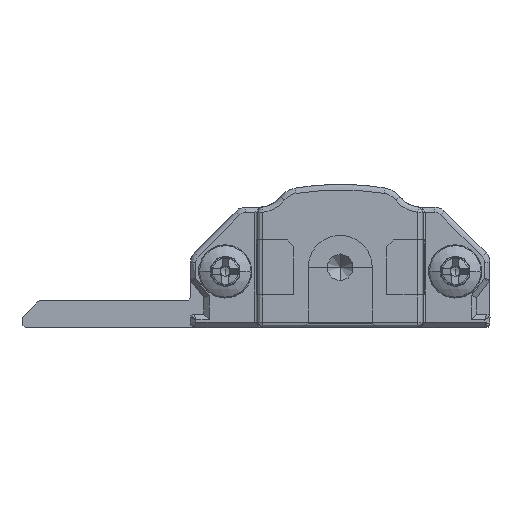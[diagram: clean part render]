
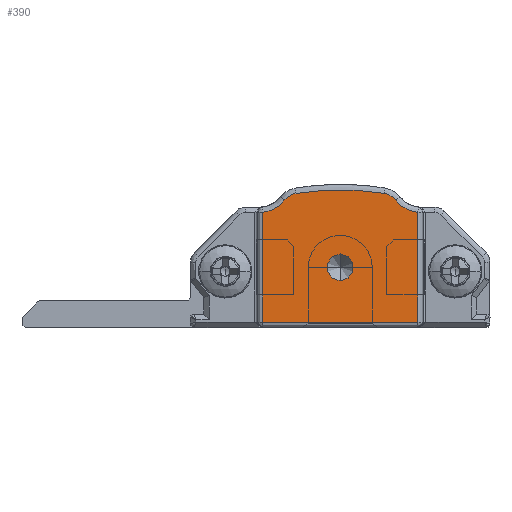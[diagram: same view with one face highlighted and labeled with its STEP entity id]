
A CAD part, front view. The second image highlights one B-rep face of the part: STEP entity #390.
In plain terms, the highlighted planar face has unit normal (0, -1, 0).
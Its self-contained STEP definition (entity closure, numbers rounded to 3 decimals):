
#29 = ORIENTED_EDGE ( 'NONE', *, *, #2611, .T. ) ;
#353 = CARTESIAN_POINT ( 'NONE',  ( 17., -15., 0.4 ) ) ;
#359 = DIRECTION ( 'NONE',  ( 0., 1., 0. ) ) ;
#390 = ADVANCED_FACE ( 'NONE', ( #5642, #10353 ), #19999, .T. ) ;
#447 = VERTEX_POINT ( 'NONE', #1150 ) ;
#921 = EDGE_LOOP ( 'NONE', ( #6672, #5961 ) ) ;
#1003 = LINE ( 'NONE', #13514, #22557 ) ;
#1150 = CARTESIAN_POINT ( 'NONE',  ( 11.2, -15., 3.5 ) ) ;
#1550 = CARTESIAN_POINT ( 'NONE',  ( 11.2, -15., -10.376 ) ) ;
#1618 = DIRECTION ( 'NONE',  ( 0., 0., -1. ) ) ;
#2157 = VERTEX_POINT ( 'NONE', #17622 ) ;
#2611 = EDGE_CURVE ( 'NONE', #4680, #22656, #22935, .T. ) ;
#2654 = CIRCLE ( 'NONE', #17318, 2.4 ) ;
#3405 = AXIS2_PLACEMENT_3D ( 'NONE', #20953, #13827, #30665 ) ;
#3486 = CARTESIAN_POINT ( 'NONE',  ( 7.068, -15., 9.541 ) ) ;
#3673 = CARTESIAN_POINT ( 'NONE',  ( 14.508, -15., 10.034 ) ) ;
#3954 = VERTEX_POINT ( 'NONE', #9781 ) ;
#4488 = EDGE_CURVE ( 'NONE', #22967, #447, #11002, .T. ) ;
#4516 = EDGE_CURVE ( 'NONE', #22656, #30895, #14556, .T. ) ;
#4680 = VERTEX_POINT ( 'NONE', #12801 ) ;
#4952 = AXIS2_PLACEMENT_3D ( 'NONE', #28570, #6859, #14146 ) ;
#4994 = CARTESIAN_POINT ( 'NONE',  ( 17.238, -15., 11. ) ) ;
#5233 = DIRECTION ( 'NONE',  ( 0., 0., -1. ) ) ;
#5642 = FACE_OUTER_BOUND ( 'NONE', #15923, .T. ) ;
#5961 = ORIENTED_EDGE ( 'NONE', *, *, #4488, .F. ) ;
#6672 = ORIENTED_EDGE ( 'NONE', *, *, #31171, .F. ) ;
#6859 = DIRECTION ( 'NONE',  ( 0., -1., 0. ) ) ;
#7017 = VECTOR ( 'NONE', #23254, 1000. ) ;
#7809 = CIRCLE ( 'NONE', #30606, 2.4 ) ;
#7829 = CIRCLE ( 'NONE', #23993, 1. ) ;
#8705 = ORIENTED_EDGE ( 'NONE', *, *, #29347, .T. ) ;
#9039 = VECTOR ( 'NONE', #29306, 1000. ) ;
#9086 = DIRECTION ( 'NONE',  ( 0., 0., -1. ) ) ;
#9226 = ORIENTED_EDGE ( 'NONE', *, *, #29610, .T. ) ;
#9487 = CIRCLE ( 'NONE', #3405, 1.3 ) ;
#9586 = CARTESIAN_POINT ( 'NONE',  ( 17., -15., 8.612 ) ) ;
#9640 = VERTEX_POINT ( 'NONE', #3673 ) ;
#9668 = CARTESIAN_POINT ( 'NONE',  ( 17., -15., 8.612 ) ) ;
#9781 = CARTESIAN_POINT ( 'NONE',  ( 7.892, -15., 10.034 ) ) ;
#10175 = AXIS2_PLACEMENT_3D ( 'NONE', #23325, #27476, #1618 ) ;
#10353 = FACE_BOUND ( 'NONE', #921, .T. ) ;
#11002 = CIRCLE ( 'NONE', #19616, 1. ) ;
#11107 = VERTEX_POINT ( 'NONE', #3486 ) ;
#11414 = DIRECTION ( 'NONE',  ( 0., -1., 0. ) ) ;
#11584 = CARTESIAN_POINT ( 'NONE',  ( 11.2, -15., 4.5 ) ) ;
#12103 = DIRECTION ( 'NONE',  ( 0., 1., 0. ) ) ;
#12208 = CARTESIAN_POINT ( 'NONE',  ( 11.2, -15., 5.5 ) ) ;
#12423 = CARTESIAN_POINT ( 'NONE',  ( 5.162, -15., 11. ) ) ;
#12801 = CARTESIAN_POINT ( 'NONE',  ( 5.4, -15., 0.4 ) ) ;
#13514 = CARTESIAN_POINT ( 'NONE',  ( 5.4, -15., 0.4 ) ) ;
#13827 = DIRECTION ( 'NONE',  ( 0., -1., 0. ) ) ;
#14146 = DIRECTION ( 'NONE',  ( 0., 0., -1. ) ) ;
#14556 = LINE ( 'NONE', #9668, #9039 ) ;
#14814 = DIRECTION ( 'NONE',  ( 0., 0., -1. ) ) ;
#15100 = DIRECTION ( 'NONE',  ( 0., 0., -1. ) ) ;
#15575 = CARTESIAN_POINT ( 'NONE',  ( 5.4, -15., 8.612 ) ) ;
#15923 = EDGE_LOOP ( 'NONE', ( #24878, #17727, #26327, #9226, #26861, #8705, #20384, #29 ) ) ;
#16124 = DIRECTION ( 'NONE',  ( 0., -1., 0. ) ) ;
#17318 = AXIS2_PLACEMENT_3D ( 'NONE', #12423, #12103, #14814 ) ;
#17338 = CIRCLE ( 'NONE', #18866, 20.676 ) ;
#17622 = CARTESIAN_POINT ( 'NONE',  ( 15.332, -15., 9.541 ) ) ;
#17727 = ORIENTED_EDGE ( 'NONE', *, *, #30993, .T. ) ;
#18275 = DIRECTION ( 'NONE',  ( 0., 0., -1. ) ) ;
#18369 = EDGE_CURVE ( 'NONE', #3954, #11107, #30768, .T. ) ;
#18866 = AXIS2_PLACEMENT_3D ( 'NONE', #1550, #16124, #27882 ) ;
#19616 = AXIS2_PLACEMENT_3D ( 'NONE', #26748, #21511, #5233 ) ;
#19999 = PLANE ( 'NONE',  #10175 ) ;
#20384 = ORIENTED_EDGE ( 'NONE', *, *, #21639, .T. ) ;
#20705 = CARTESIAN_POINT ( 'NONE',  ( 17., -15., 0.4 ) ) ;
#20953 = CARTESIAN_POINT ( 'NONE',  ( 14.3, -15., 8.75 ) ) ;
#21511 = DIRECTION ( 'NONE',  ( 0., -1., 0. ) ) ;
#21639 = EDGE_CURVE ( 'NONE', #28739, #4680, #1003, .T. ) ;
#21817 = EDGE_CURVE ( 'NONE', #2157, #9640, #9487, .T. ) ;
#22557 = VECTOR ( 'NONE', #18275, 1000. ) ;
#22656 = VERTEX_POINT ( 'NONE', #353 ) ;
#22935 = LINE ( 'NONE', #20705, #7017 ) ;
#22967 = VERTEX_POINT ( 'NONE', #12208 ) ;
#23254 = DIRECTION ( 'NONE',  ( 1., 0., 0. ) ) ;
#23325 = CARTESIAN_POINT ( 'NONE',  ( 22.15, -15., 3.606 ) ) ;
#23993 = AXIS2_PLACEMENT_3D ( 'NONE', #11584, #11414, #9086 ) ;
#24878 = ORIENTED_EDGE ( 'NONE', *, *, #4516, .T. ) ;
#26327 = ORIENTED_EDGE ( 'NONE', *, *, #21817, .T. ) ;
#26748 = CARTESIAN_POINT ( 'NONE',  ( 11.2, -15., 4.5 ) ) ;
#26861 = ORIENTED_EDGE ( 'NONE', *, *, #18369, .T. ) ;
#27476 = DIRECTION ( 'NONE',  ( 0., -1., 0. ) ) ;
#27882 = DIRECTION ( 'NONE',  ( 0., 0., -1. ) ) ;
#28570 = CARTESIAN_POINT ( 'NONE',  ( 8.1, -15., 8.75 ) ) ;
#28739 = VERTEX_POINT ( 'NONE', #15575 ) ;
#29306 = DIRECTION ( 'NONE',  ( 0., 0., 1. ) ) ;
#29347 = EDGE_CURVE ( 'NONE', #11107, #28739, #2654, .T. ) ;
#29610 = EDGE_CURVE ( 'NONE', #9640, #3954, #17338, .T. ) ;
#30606 = AXIS2_PLACEMENT_3D ( 'NONE', #4994, #359, #15100 ) ;
#30665 = DIRECTION ( 'NONE',  ( 0., 0., -1. ) ) ;
#30768 = CIRCLE ( 'NONE', #4952, 1.3 ) ;
#30895 = VERTEX_POINT ( 'NONE', #9586 ) ;
#30993 = EDGE_CURVE ( 'NONE', #30895, #2157, #7809, .T. ) ;
#31171 = EDGE_CURVE ( 'NONE', #447, #22967, #7829, .T. ) ;
